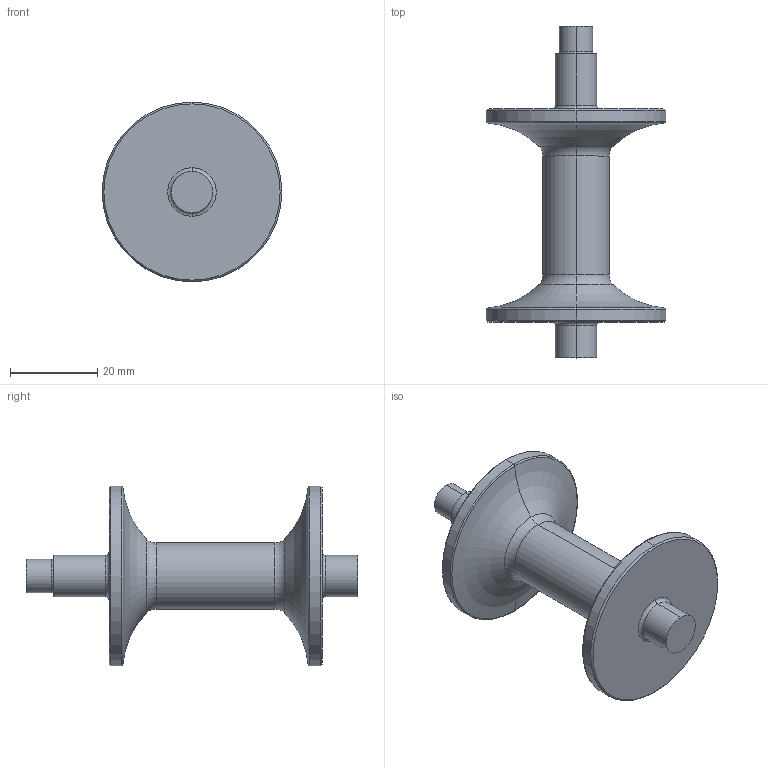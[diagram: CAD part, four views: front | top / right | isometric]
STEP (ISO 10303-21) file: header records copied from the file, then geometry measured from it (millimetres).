
FILE_DESCRIPTION (( 'STEP AP214' ), '1' );
FILE_NAME ('xom_LatheTestPart_071320_CM.STEP', '2020-07-13T05:40:35', ( '' ), ( '' ), 'SwSTEP 2.0', 'SolidWorks 2020', '' );
FILE_SCHEMA (( 'AUTOMOTIVE_DESIGN' ));
Length unit declared in the file: inch
Products named in the file (1): xom_LatheTestPart_071320_CM
Bounding box: 41.27 x 76.2 x 41.27 mm (x, y, z)
Volume: 21829.1 mm3; surface area: 8143.2 mm2
Topology: 1 solids, 1 shells, 39 faces, 76 edges, 42 vertices
Faces by surface type: torus 18, cylinder 12, plane 5, cone 4
Entity records: 1042 total; most frequent: DIRECTION 216, CARTESIAN_POINT 158, ORIENTED_EDGE 152, AXIS2_PLACEMENT_3D 100, EDGE_CURVE 76, CIRCLE 60, VERTEX_POINT 42, EDGE_LOOP 42
